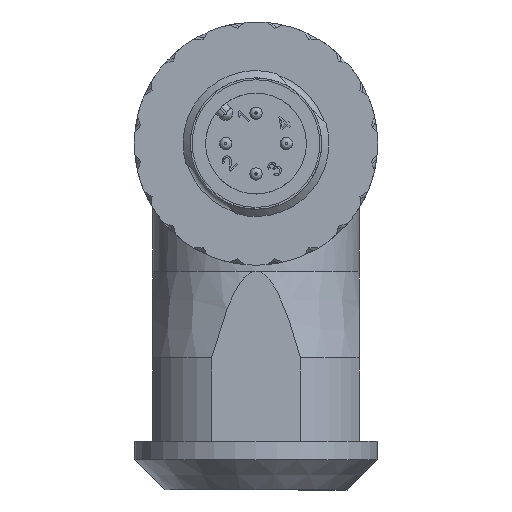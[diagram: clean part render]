
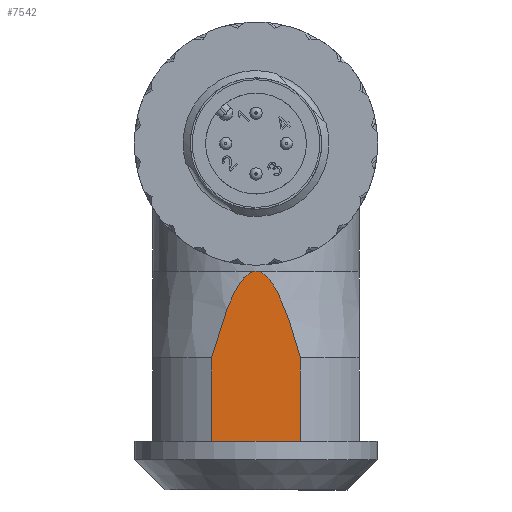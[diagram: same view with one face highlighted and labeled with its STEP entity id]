
A CAD part, front view. The second image highlights one B-rep face of the part: STEP entity #7542.
In plain terms, the highlighted planar face has unit normal (0, -1, 0).
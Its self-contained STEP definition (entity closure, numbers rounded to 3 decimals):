
#198=(
BOUNDED_CURVE()
B_SPLINE_CURVE(2,(#12604,#12605,#12606),.UNSPECIFIED.,.F.,.F.)
B_SPLINE_CURVE_WITH_KNOTS((3,3),(0.82,1.639),
 .UNSPECIFIED.)
CURVE()
GEOMETRIC_REPRESENTATION_ITEM()
RATIONAL_B_SPLINE_CURVE((1.,1.022,1.))
REPRESENTATION_ITEM('')
);
#200=(
BOUNDED_CURVE()
B_SPLINE_CURVE(2,(#12629,#12630,#12631),.UNSPECIFIED.,.F.,.F.)
B_SPLINE_CURVE_WITH_KNOTS((3,3),(0.,0.82),.UNSPECIFIED.)
CURVE()
GEOMETRIC_REPRESENTATION_ITEM()
RATIONAL_B_SPLINE_CURVE((1.,1.022,1.))
REPRESENTATION_ITEM('')
);
#879=FACE_OUTER_BOUND('',#1309,.T.);
#1309=EDGE_LOOP('',(#5908,#5909,#5910,#5911,#5912));
#1914=LINE('',#12593,#2563);
#1916=LINE('',#12599,#2565);
#1918=LINE('',#12612,#2567);
#2563=VECTOR('',#9427,10.);
#2565=VECTOR('',#9433,10.);
#2567=VECTOR('',#9441,10.);
#3231=VERTEX_POINT('',#12376);
#3253=VERTEX_POINT('',#12590);
#3254=VERTEX_POINT('',#12592);
#3256=VERTEX_POINT('',#12598);
#3258=VERTEX_POINT('',#12611);
#4177=EDGE_CURVE('',#3253,#3254,#1914,.T.);
#4180=EDGE_CURVE('',#3256,#3253,#1916,.T.);
#4183=EDGE_CURVE('',#3231,#3256,#198,.T.);
#4185=EDGE_CURVE('',#3254,#3258,#1918,.T.);
#4194=EDGE_CURVE('',#3258,#3231,#200,.T.);
#5908=ORIENTED_EDGE('',*,*,#4183,.F.);
#5909=ORIENTED_EDGE('',*,*,#4194,.F.);
#5910=ORIENTED_EDGE('',*,*,#4185,.F.);
#5911=ORIENTED_EDGE('',*,*,#4177,.F.);
#5912=ORIENTED_EDGE('',*,*,#4180,.F.);
#6797=PLANE('',#8059);
#7542=ADVANCED_FACE('',(#879),#6797,.F.);
#8059=AXIS2_PLACEMENT_3D('',#12652,#9469,#9470);
#9427=DIRECTION('',(-1.,0.,0.));
#9433=DIRECTION('',(0.,0.,-1.));
#9441=DIRECTION('',(0.,0.,1.));
#9469=DIRECTION('center_axis',(0.,1.,0.));
#9470=DIRECTION('ref_axis',(1.,0.,0.));
#12376=CARTESIAN_POINT('',(0.,8.3,-10.5));
#12590=CARTESIAN_POINT('',(3.649,8.3,-24.5));
#12592=CARTESIAN_POINT('',(-3.649,8.3,-24.5));
#12593=CARTESIAN_POINT('',(3.649,8.3,-24.5));
#12598=CARTESIAN_POINT('',(3.649,8.3,-17.636));
#12599=CARTESIAN_POINT('',(3.649,8.3,-21.068));
#12604=CARTESIAN_POINT('Ctrl Pts',(0.,8.3,
-10.5));
#12605=CARTESIAN_POINT('Ctrl Pts',(1.747,8.3,-10.5));
#12606=CARTESIAN_POINT('Ctrl Pts',(3.649,8.3,-17.636));
#12611=CARTESIAN_POINT('',(-3.649,8.3,-17.636));
#12612=CARTESIAN_POINT('',(-3.649,8.3,-21.068));
#12629=CARTESIAN_POINT('Ctrl Pts',(-3.649,8.3,-17.636));
#12630=CARTESIAN_POINT('Ctrl Pts',(-1.747,8.3,-10.5));
#12631=CARTESIAN_POINT('Ctrl Pts',(0.,8.3,
-10.5));
#12652=CARTESIAN_POINT('Origin',(-3.649,8.3,-24.5));
